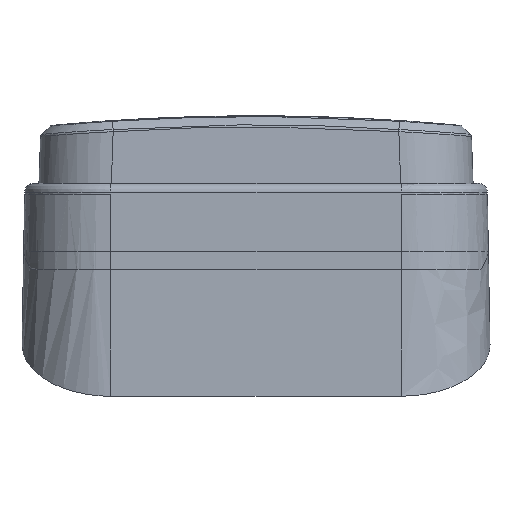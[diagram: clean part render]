
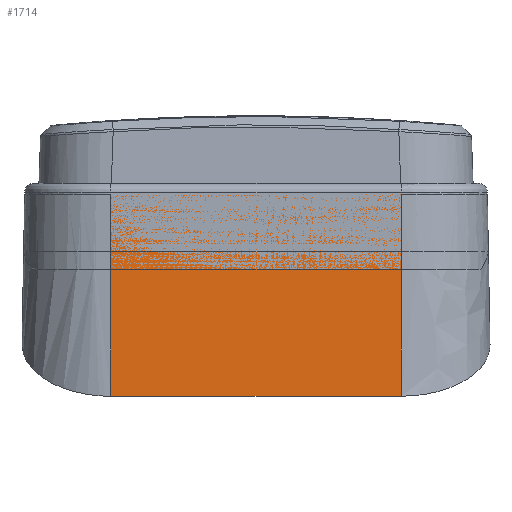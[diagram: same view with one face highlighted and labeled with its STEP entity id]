
A CAD part, front view. The second image highlights one B-rep face of the part: STEP entity #1714.
In plain terms, the highlighted planar face has unit normal (0, -1, 0.018) as drawn and (0, -1, -0.017) by its records, which use the part's own axes.
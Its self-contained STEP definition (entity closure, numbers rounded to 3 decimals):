
#1714 = ADVANCED_FACE ( 'NONE', ( #29601 ), #18888, .T. ) ;
#3182 = AXIS2_PLACEMENT_3D ( 'NONE', #18880, #19035, #19037 ) ;
#15064 = EDGE_LOOP ( 'NONE', ( #17788, #17790, #17792, #17795, #17797, #17799 ) ) ;
#15838 = EDGE_CURVE ( 'NONE', #16153, #16150, #27580, .T. ) ;
#15907 = EDGE_CURVE ( 'NONE', #16150, #16202, #27654, .T. ) ;
#15909 = EDGE_CURVE ( 'NONE', #16153, #16199, #27650, .T. ) ;
#15910 = EDGE_CURVE ( 'NONE', #16205, #16202, #27659, .T. ) ;
#15911 = EDGE_CURVE ( 'NONE', #16205, #16207, #27658, .T. ) ;
#15912 = EDGE_CURVE ( 'NONE', #16207, #16199, #27662, .T. ) ;
#16150 = VERTEX_POINT ( 'NONE', #36334 ) ;
#16153 = VERTEX_POINT ( 'NONE', #36337 ) ;
#16199 = VERTEX_POINT ( 'NONE', #36383 ) ;
#16202 = VERTEX_POINT ( 'NONE', #36386 ) ;
#16205 = VERTEX_POINT ( 'NONE', #36389 ) ;
#16207 = VERTEX_POINT ( 'NONE', #36391 ) ;
#17788 = ORIENTED_EDGE ( 'NONE', *, *, #15909, .F. ) ;
#17790 = ORIENTED_EDGE ( 'NONE', *, *, #15838, .T. ) ;
#17792 = ORIENTED_EDGE ( 'NONE', *, *, #15907, .T. ) ;
#17795 = ORIENTED_EDGE ( 'NONE', *, *, #15910, .F. ) ;
#17797 = ORIENTED_EDGE ( 'NONE', *, *, #15911, .T. ) ;
#17799 = ORIENTED_EDGE ( 'NONE', *, *, #15912, .T. ) ;
#18880 = CARTESIAN_POINT ( 'NONE',  ( -24.007, -21.8, 0. ) ) ;
#18888 = PLANE ( 'NONE',  #3182 ) ;
#19035 = DIRECTION ( 'NONE',  ( 0., -1., -0.017 ) ) ;
#19037 = DIRECTION ( 'NONE',  ( 0., 0.017, -1. ) ) ;
#27580 = LINE ( 'NONE', #34577, #27589 ) ;
#27589 = VECTOR ( 'NONE', #34600, 1000. ) ;
#27650 = LINE ( 'NONE', #35493, #27656 ) ;
#27654 = LINE ( 'NONE', #35465, #27657 ) ;
#27656 = VECTOR ( 'NONE', #35494, 1000. ) ;
#27657 = VECTOR ( 'NONE', #35466, 1000. ) ;
#27658 = LINE ( 'NONE', #35469, #27663 ) ;
#27659 = LINE ( 'NONE', #35495, #27661 ) ;
#27661 = VECTOR ( 'NONE', #35497, 1000. ) ;
#27662 = LINE ( 'NONE', #35499, #27665 ) ;
#27663 = VECTOR ( 'NONE', #35498, 1000. ) ;
#27665 = VECTOR ( 'NONE', #35500, 1000. ) ;
#29601 = FACE_OUTER_BOUND ( 'NONE', #15064, .T. ) ;
#34577 = CARTESIAN_POINT ( 'NONE',  ( -24.007, -22.383, 33.413 ) ) ;
#34600 = DIRECTION ( 'NONE',  ( -1., 0., 0. ) ) ;
#35465 = CARTESIAN_POINT ( 'NONE',  ( -24.007, -21.8, 0. ) ) ;
#35466 = DIRECTION ( 'NONE',  ( 0., 0.017, -1. ) ) ;
#35469 = CARTESIAN_POINT ( 'NONE',  ( -24.007, -21.794, -0.326 ) ) ;
#35493 = CARTESIAN_POINT ( 'NONE',  ( 24.007, -21.8, 0. ) ) ;
#35494 = DIRECTION ( 'NONE',  ( 0., 0.017, -1. ) ) ;
#35495 = CARTESIAN_POINT ( 'NONE',  ( -24.007, -21.8, 0. ) ) ;
#35497 = DIRECTION ( 'NONE',  ( 0., -0.017, 1. ) ) ;
#35498 = DIRECTION ( 'NONE',  ( 1., 0., 0. ) ) ;
#35499 = CARTESIAN_POINT ( 'NONE',  ( 24.007, -21.8, 0. ) ) ;
#35500 = DIRECTION ( 'NONE',  ( 0., -0.017, 1. ) ) ;
#36334 = CARTESIAN_POINT ( 'NONE',  ( -24.007, -22.383, 33.413 ) ) ;
#36337 = CARTESIAN_POINT ( 'NONE',  ( 24.007, -22.383, 33.413 ) ) ;
#36383 = CARTESIAN_POINT ( 'NONE',  ( 24.007, -21.8, 0. ) ) ;
#36386 = CARTESIAN_POINT ( 'NONE',  ( -24.007, -21.8, 0. ) ) ;
#36389 = CARTESIAN_POINT ( 'NONE',  ( -24.007, -21.794, -0.326 ) ) ;
#36391 = CARTESIAN_POINT ( 'NONE',  ( 24.007, -21.794, -0.326 ) ) ;
